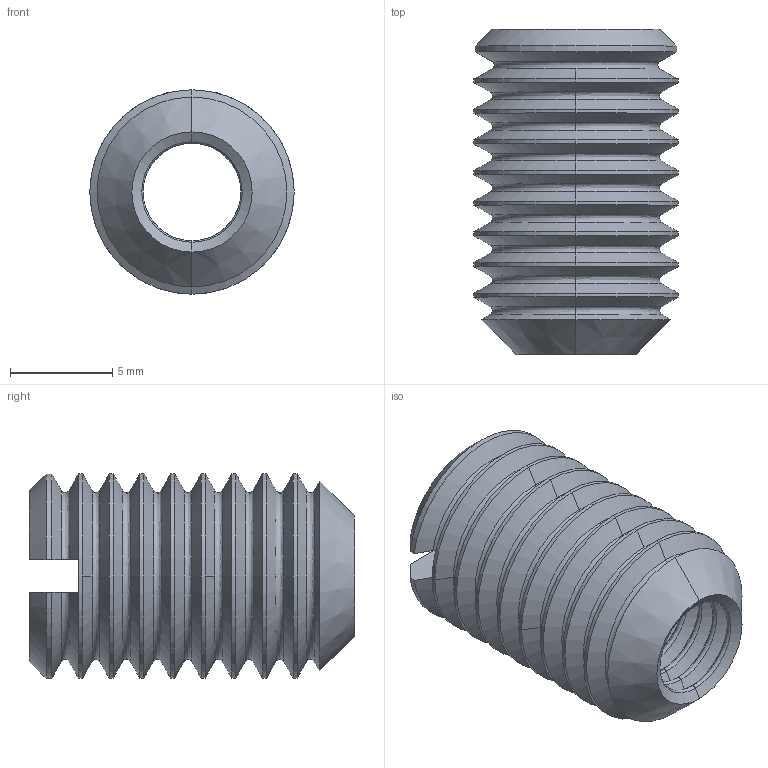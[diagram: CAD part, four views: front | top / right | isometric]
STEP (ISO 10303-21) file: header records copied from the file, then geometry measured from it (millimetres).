
FILE_DESCRIPTION (( 'STEP AP214' ), '1' );
FILE_NAME ('3.04.hrb.m6.STEP', '2025-06-14T18:51:03', ( '' ), ( '' ), 'SwSTEP 2.0', 'SolidWorks 2023', '' );
FILE_SCHEMA (( 'AUTOMOTIVE_DESIGN' ));
Length unit declared in the file: millimetre
Products named in the file (1): 3.04.hrb.m6
Bounding box: 10 x 15.91 x 10 mm (x, y, z)
Volume: 622.8 mm3; surface area: 1209.5 mm2
Topology: 1 solids, 1 shells, 223 faces, 522 edges, 299 vertices
Faces by surface type: cone 111, bspline 53, cylinder 51, plane 8
Entity records: 7036 total; most frequent: CARTESIAN_POINT 2020, DIRECTION 1122, ORIENTED_EDGE 1044, EDGE_CURVE 522, AXIS2_PLACEMENT_3D 481, CIRCLE 310, VERTEX_POINT 299, EDGE_LOOP 223
